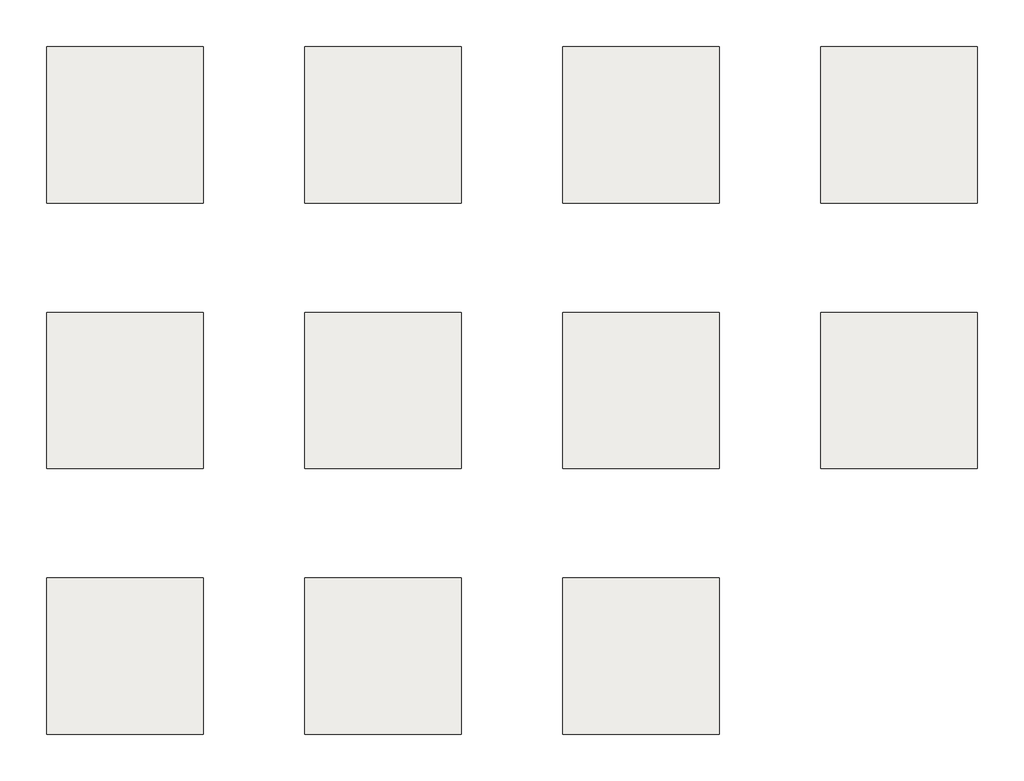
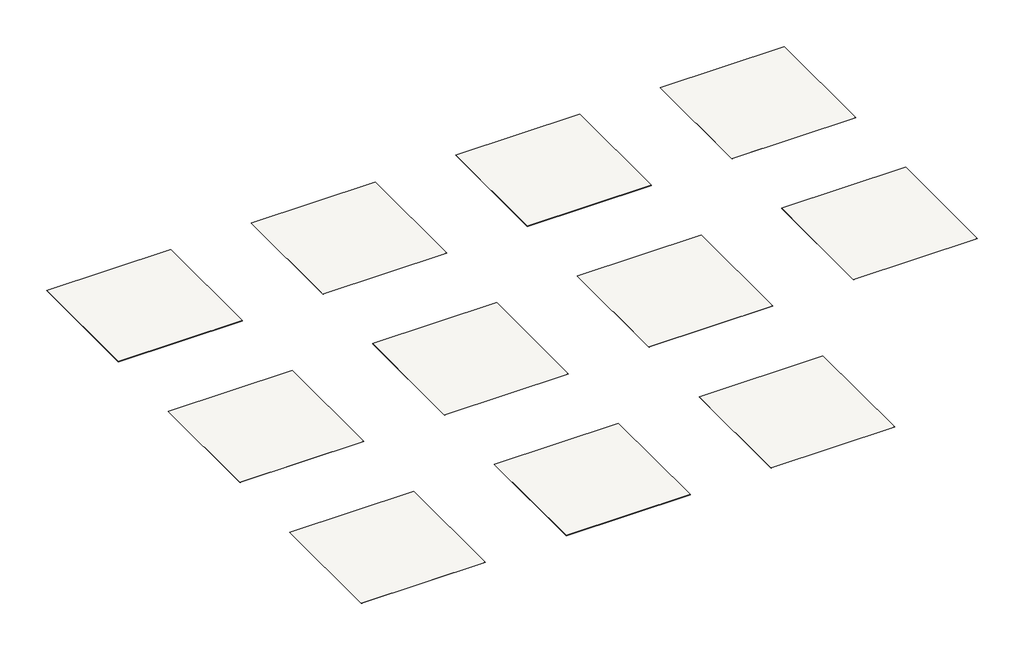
# One storey: 11 slabs.
"""IFC4 building model written with IfcOpenShell, lengths in millimetres."""

import ifcopenshell
import ifcopenshell.guid

model = None  # the IFC model being written
_history = None  # IfcOwnerHistory: only IFC2X3 demands one
_inside = {}  # id of a spatial element -> (the spatial element, [elements in it])
_under = {}  # id of a project, library or spatial element -> (it, [spatial elements below it])
_declared = {}  # id of a project -> (the project, [libraries it declares])
_typed = {}  # id of a type object -> (the type object, [elements of that type])
_made_of = {}  # id of a material, layer set ... -> (it, [elements and type objects made of it])


def new_model(schema):
    """Start an empty IFC model of exactly this schema.

    Asked for "IFC4X3", IfcOpenShell would pick the latest addendum, in which some entities
    have other attributes; the version numbers below select the first issue.
    IFC2X3 requires an IfcOwnerHistory on every rooted entity: one is made here for all.
    """
    global model, _history
    if schema == "IFC4X3":
        model = ifcopenshell.file(schema_version=(4, 3, 0, 0))
    else:
        model = ifcopenshell.file(schema=schema)
    _inside.clear()
    _under.clear()
    _declared.clear()
    _typed.clear()
    _made_of.clear()
    _history = None
    if model.schema == "IFC2X3":
        org = make("IfcOrganization", Name="unknown")
        user = make(
            "IfcPersonAndOrganization",
            ThePerson=make("IfcPerson", FamilyName="unknown"),
            TheOrganization=org,
        )
        app = make(
            "IfcApplication",
            ApplicationDeveloper=org,
            Version="unknown",
            ApplicationFullName="unknown",
            ApplicationIdentifier="unknown",
        )
        _history = make(
            "IfcOwnerHistory",
            OwningUser=user,
            OwningApplication=app,
            ChangeAction="ADDED",
            CreationDate=0,
        )
    return model


def make(cls, **values):
    """One entity of the class cls with the attributes given. An attribute that is None is left unset."""
    return model.create_entity(
        cls, **{name: value for name, value in values.items() if value is not None}
    )


def rooted(cls, **values):
    """An entity with a GlobalId (a new one), such as an element, a storey or a relation."""
    return make(cls, GlobalId=ifcopenshell.guid.new(), OwnerHistory=_history, **values)


def si_unit(unit_type, name, prefix=None):
    """IfcSIUnit, for example si_unit("LENGTHUNIT", "METRE", prefix="MILLI")."""
    return make("IfcSIUnit", UnitType=unit_type, Prefix=prefix, Name=name)


def assignment(units):
    """IfcUnitAssignment: the units of a project."""
    return None if units is None else make("IfcUnitAssignment", Units=units)


def point(xyz):
    """IfcCartesianPoint."""
    return None if xyz is None else make("IfcCartesianPoint", Coordinates=xyz)


def direction(xyz):
    """IfcDirection."""
    return None if xyz is None else make("IfcDirection", DirectionRatios=xyz)


def frame(location, z_axis=None, x_axis=None):
    """IfcAxis2Placement3D, a coordinate frame: its origin and axes. An axis left out is left unset."""
    return make(
        "IfcAxis2Placement3D",
        Location=point(location),
        Axis=direction(z_axis),
        RefDirection=direction(x_axis),
    )


def origin():
    """The frame at (0, 0, 0) with its axes left unset."""
    return frame((0.0, 0.0, 0.0))


def place(relative_to, where):
    """IfcLocalPlacement: puts the frame where relative to a parent placement (None: the world)."""
    return make(
        "IfcLocalPlacement", PlacementRelTo=relative_to, RelativePlacement=where
    )


def context(
    kind, dimensions, precision=None, world=None, true_north=None, identifier=None
):
    """IfcGeometricRepresentationContext, for example the 3D "Model" context."""
    return make(
        "IfcGeometricRepresentationContext",
        ContextIdentifier=identifier,
        ContextType=kind,
        CoordinateSpaceDimension=dimensions,
        Precision=precision,
        WorldCoordinateSystem=world,
        TrueNorth=true_north,
    )


def project(units=None, contexts=None):
    """IfcProject with its units and contexts."""
    return rooted(
        "IfcProject",
        Name="project",
        RepresentationContexts=contexts,
        UnitsInContext=assignment(units),
    )


def spatial(cls, under=None, at=None, **own):
    """A site, building, storey or space (cls), placed at a placement, below another one or the project."""
    s = rooted(cls, ObjectPlacement=at, **own)
    if under is not None:
        _under.setdefault(under.id(), (under, []))[1].append(s)
    return s


def polyline(points):
    """IfcPolyline through the points."""
    return make("IfcPolyline", Points=[point(p) for p in points])


def outline(outer, holes=None, kind="AREA"):
    """IfcArbitraryClosedProfileDef: a profile drawn as a closed curve; with holes, ...WithVoids."""
    if holes is None:
        return make("IfcArbitraryClosedProfileDef", ProfileType=kind, OuterCurve=outer)
    return make(
        "IfcArbitraryProfileDefWithVoids",
        ProfileType=kind,
        OuterCurve=outer,
        InnerCurves=holes,
    )


def extrude(swept, where, along, depth):
    """IfcExtrudedAreaSolid: the profile swept, set in the frame where, extruded along a direction by depth."""
    return make(
        "IfcExtrudedAreaSolid",
        SweptArea=swept,
        Position=where,
        ExtrudedDirection=direction(along),
        Depth=depth,
    )


def shape(context_of_items, identifier, shape_type, items):
    """IfcShapeRepresentation: the items that make up one representation, for example the "Body"."""
    return make(
        "IfcShapeRepresentation",
        ContextOfItems=context_of_items,
        RepresentationIdentifier=identifier,
        RepresentationType=shape_type,
        Items=items,
    )


def made_of(thing, what):
    """Note that an element or type object is made of a material, layer set ...; save() writes the relation."""
    if what is not None:
        _made_of.setdefault(what.id(), (what, []))[1].append(thing)
    return thing


def element(
    cls,
    number,
    at=None,
    inside=None,
    cuts=None,
    type_object=None,
    material=None,
    context=None,
    identifier="Body",
    shape_type=None,
    held_by="IfcProductDefinitionShape",
    body=None,
    shapes=None,
    **own,
):
    """One element of the class cls, such as IfcWall. Its Tag is "e" and its number.

    at: its placement. inside: the storey or other place that contains it. cuts: it is an
    opening in that element (IfcRelVoidsElement). A single representation is given by context,
    identifier, shape_type and body (its items); several are given by shapes. held_by: the class
    of the entity that holds the representations. save() writes the other relations.
    """
    e = rooted(cls, Tag="e%d" % number, ObjectPlacement=at, **own)
    if body is not None:
        shapes = [shape(context, identifier, shape_type, body)]
    if shapes is not None:
        e.Representation = make(held_by, Representations=shapes)
    if inside is not None:
        _inside.setdefault(inside.id(), (inside, []))[1].append(e)
    if cuts is not None:
        rooted(
            "IfcRelVoidsElement", RelatingBuildingElement=cuts, RelatedOpeningElement=e
        )
    if type_object is not None:
        _typed.setdefault(type_object.id(), (type_object, []))[1].append(e)
    return made_of(e, material)


def aggregate(whole, parts):
    """IfcRelAggregates: a whole, such as a stair, and the parts it consists of."""
    return rooted("IfcRelAggregates", RelatingObject=whole, RelatedObjects=parts)


def save(model, path):
    """Write the relations noted so far, then the file.

    IfcRelAggregates (storeys below a building ...), IfcRelContainedInSpatialStructure (elements
    in a storey), IfcRelDefinesByType, IfcRelAssociatesMaterial and IfcRelDeclares: one each for
    every whole, place, type object, material and project.
    """
    for whole, parts in _under.values():
        aggregate(whole, parts)
    for where, things in _inside.values():
        rooted(
            "IfcRelContainedInSpatialStructure",
            RelatedElements=things,
            RelatingStructure=where,
        )
    for kind, things in _typed.values():
        rooted("IfcRelDefinesByType", RelatedObjects=things, RelatingType=kind)
    for what, things in _made_of.values():
        rooted("IfcRelAssociatesMaterial", RelatedObjects=things, RelatingMaterial=what)
    for by, libraries in _declared.values():
        rooted("IfcRelDeclares", RelatingContext=by, RelatedDefinitions=libraries)
    model.write(path)


model = new_model("IFC4")

# Units and contexts
model_context = context("Model", 3, world=origin())
ifc_project = project(units=[si_unit("LENGTHUNIT", "METRE", prefix="MILLI")], contexts=[model_context])

# Site, building, storey
site = spatial("IfcSite", under=ifc_project)
building = spatial("IfcBuilding", under=site)
storey = spatial("IfcBuildingStorey", under=building, Name="Tarkett Brasil", Elevation=0.0)

# Slabs
placement = place(None, origin())
element("IfcSlab", 1, ObjectType="Tarkett Brasil - Vinyl - Essence 30 - Alfazema 24091512", at=placement, inside=storey, context=model_context, shape_type="SweptSolid", body=[
    extrude(outline(polyline([(-15702.4114832, 14777.5655387), (-15702.4114832, 12777.5655387), (-17702.4114832, 12777.5655387), (-17702.4114832, 14777.5655387), (-15702.4114832, 14777.5655387)])), frame((0.0, 0.0, -2.5), z_axis=(0.0, 0.0, 1.0), x_axis=(1.0, 0.0, 0.0)), (0.0, 0.0, 1.0), 2.5),
])
element("IfcSlab", 2, ObjectType="Tarkett Brasil - Vinyl - Essence 30 - Begonia 24091110", at=placement, inside=storey, context=model_context, shape_type="SweptSolid", body=[
    extrude(outline(polyline([(-12402.4114832, 14777.5655387), (-12402.4114832, 12777.5655387), (-14402.4114832, 12777.5655387), (-14402.4114832, 14777.5655387), (-12402.4114832, 14777.5655387)])), frame((0.0, 0.0, -2.5), z_axis=(0.0, 0.0, 1.0), x_axis=(1.0, 0.0, 0.0)), (0.0, 0.0, 1.0), 2.5),
])
element("IfcSlab", 3, ObjectType="Tarkett Brasil - Vinyl - Essence 30 - Bromeloa 24091311", at=placement, inside=storey, context=model_context, shape_type="SweptSolid", body=[
    extrude(outline(polyline([(-9102.4114832, 14777.5655387), (-9102.4114832, 12777.5655387), (-11102.4114832, 12777.5655387), (-11102.4114832, 14777.5655387), (-9102.4114832, 14777.5655387)])), frame((0.0, 0.0, -2.5), z_axis=(0.0, 0.0, 1.0), x_axis=(1.0, 0.0, 0.0)), (0.0, 0.0, 1.0), 2.5),
])
element("IfcSlab", 4, ObjectType="Tarkett Brasil - Vinyl - Essence 30 - Dalia 24091105", at=placement, inside=storey, context=model_context, shape_type="SweptSolid", body=[
    extrude(outline(polyline([(-5802.4114832, 14777.5655387), (-5802.4114832, 12777.5655387), (-7802.4114832, 12777.5655387), (-7802.4114832, 14777.5655387), (-5802.4114832, 14777.5655387)])), frame((0.0, 0.0, -2.5), z_axis=(0.0, 0.0, 1.0), x_axis=(1.0, 0.0, 0.0)), (0.0, 0.0, 1.0), 2.5),
])
element("IfcSlab", 5, ObjectType="Tarkett Brasil - Vinyl - Essence 30 - Hortensia 24091109", at=placement, inside=storey, context=model_context, shape_type="SweptSolid", body=[
    extrude(outline(polyline([(-15702.4114832, 11377.5655387), (-15702.4114832, 9377.5655387), (-17702.4114832, 9377.5655387), (-17702.4114832, 11377.5655387), (-15702.4114832, 11377.5655387)])), frame((0.0, 0.0, -2.5), z_axis=(0.0, 0.0, 1.0), x_axis=(1.0, 0.0, 0.0)), (0.0, 0.0, 1.0), 2.5),
])
element("IfcSlab", 6, ObjectType="Tarkett Brasil - Vinyl - Essence 30 - Lirio 24091103", at=placement, inside=storey, context=model_context, shape_type="SweptSolid", body=[
    extrude(outline(polyline([(-12402.4114832, 11377.5655387), (-12402.4114832, 9377.5655387), (-14402.4114832, 9377.5655387), (-14402.4114832, 11377.5655387), (-12402.4114832, 11377.5655387)])), frame((0.0, 0.0, -2.5), z_axis=(0.0, 0.0, 1.0), x_axis=(1.0, 0.0, 0.0)), (0.0, 0.0, 1.0), 2.5),
])
element("IfcSlab", 7, ObjectType="Tarkett Brasil - Vinyl - Essence 30 - Malva 24091711", at=placement, inside=storey, context=model_context, shape_type="SweptSolid", body=[
    extrude(outline(polyline([(-9102.4114832, 11377.5655387), (-9102.4114832, 9377.5655387), (-11102.4114832, 9377.5655387), (-11102.4114832, 11377.5655387), (-9102.4114832, 11377.5655387)])), frame((0.0, 0.0, -2.5), z_axis=(0.0, 0.0, 1.0), x_axis=(1.0, 0.0, 0.0)), (0.0, 0.0, 1.0), 2.5),
])
element("IfcSlab", 8, ObjectType="Tarkett Brasil - Vinyl - Essence 30 - Melissa 24091101", at=placement, inside=storey, context=model_context, shape_type="SweptSolid", body=[
    extrude(outline(polyline([(-5802.4114832, 11377.5655387), (-5802.4114832, 9377.5655387), (-7802.4114832, 9377.5655387), (-7802.4114832, 11377.5655387), (-5802.4114832, 11377.5655387)])), frame((0.0, 0.0, -2.5), z_axis=(0.0, 0.0, 1.0), x_axis=(1.0, 0.0, 0.0)), (0.0, 0.0, 1.0), 2.5),
])
element("IfcSlab", 9, ObjectType="Tarkett Brasil - Vinyl - Essence 30 - Basalto 24190215", at=placement, inside=storey, context=model_context, shape_type="SweptSolid", body=[
    extrude(outline(polyline([(-15702.4114832, 7977.5655387), (-15702.4114832, 5977.5655387), (-17702.4114832, 5977.5655387), (-17702.4114832, 7977.5655387), (-15702.4114832, 7977.5655387)])), frame((0.0, 0.0, -2.5), z_axis=(0.0, 0.0, 1.0), x_axis=(1.0, 0.0, 0.0)), (0.0, 0.0, 1.0), 2.5),
])
element("IfcSlab", 10, ObjectType="Tarkett Brasil - Vinyl - Essence 30 - Sienito 24190214", at=placement, inside=storey, context=model_context, shape_type="SweptSolid", body=[
    extrude(outline(polyline([(-12402.4114832, 7977.5655387), (-12402.4114832, 5977.5655387), (-14402.4114832, 5977.5655387), (-14402.4114832, 7977.5655387), (-12402.4114832, 7977.5655387)])), frame((0.0, 0.0, -2.5), z_axis=(0.0, 0.0, 1.0), x_axis=(1.0, 0.0, 0.0)), (0.0, 0.0, 1.0), 2.5),
])
element("IfcSlab", 11, ObjectType="Tarkett Brasil - Vinyl - Essence 30 - Sines 24271611", at=placement, inside=storey, context=model_context, shape_type="SweptSolid", body=[
    extrude(outline(polyline([(-9102.4114832, 7977.5655387), (-9102.4114832, 5977.5655387), (-11102.4114832, 5977.5655387), (-11102.4114832, 7977.5655387), (-9102.4114832, 7977.5655387)])), frame((0.0, 0.0, -2.5), z_axis=(0.0, 0.0, 1.0), x_axis=(1.0, 0.0, 0.0)), (0.0, 0.0, 1.0), 2.5),
])

save(model, "model.ifc")
